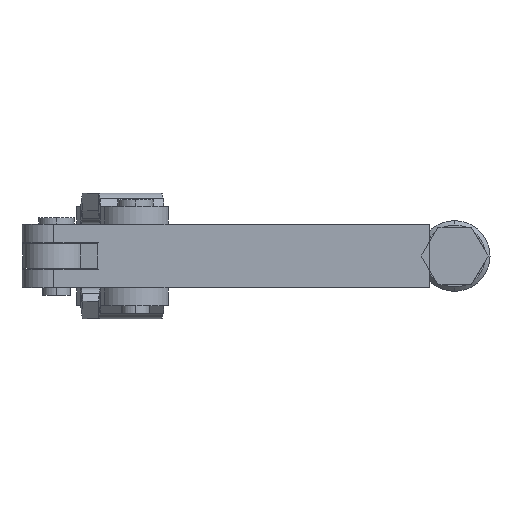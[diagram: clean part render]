
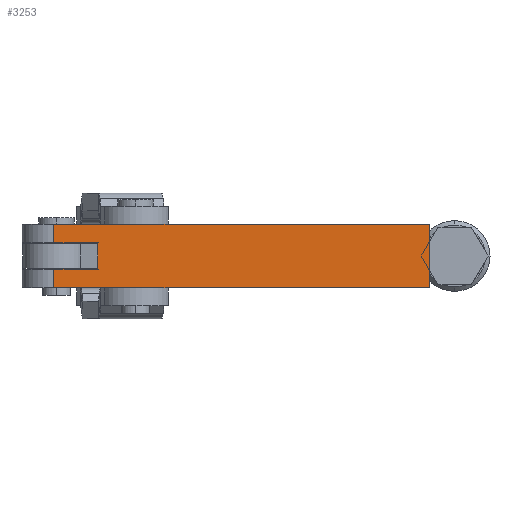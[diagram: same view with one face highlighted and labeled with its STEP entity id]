
A CAD part, front view. The second image highlights one B-rep face of the part: STEP entity #3253.
In plain terms, the highlighted planar face has unit normal (0, -1, 0).
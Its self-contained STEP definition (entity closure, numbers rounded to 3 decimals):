
#77 = ORIENTED_EDGE ( 'NONE', *, *, #5829, .T. ) ;
#206 = ORIENTED_EDGE ( 'NONE', *, *, #5756, .T. ) ;
#207 = EDGE_LOOP ( 'NONE', ( #522, #77, #375, #269, #5103, #206, #4945, #301 ) ) ;
#269 = ORIENTED_EDGE ( 'NONE', *, *, #5743, .F. ) ;
#301 = ORIENTED_EDGE ( 'NONE', *, *, #5794, .F. ) ;
#375 = ORIENTED_EDGE ( 'NONE', *, *, #5805, .T. ) ;
#522 = ORIENTED_EDGE ( 'NONE', *, *, #5820, .F. ) ;
#702 = AXIS2_PLACEMENT_3D ( 'NONE', #2224, #2223, #2222 ) ;
#1038 = CARTESIAN_POINT ( 'NONE',  ( -91.5, -7.144, 7.144 ) ) ;
#1059 = CARTESIAN_POINT ( 'NONE',  ( -7.144, -7.144, 7.144 ) ) ;
#1118 = CARTESIAN_POINT ( 'NONE',  ( -17., -7.144, -3. ) ) ;
#1168 = DIRECTION ( 'NONE',  ( 0., 0., -1. ) ) ;
#1210 = CARTESIAN_POINT ( 'NONE',  ( -91.5, -7.144, 7.144 ) ) ;
#1217 = CARTESIAN_POINT ( 'NONE',  ( -7.144, -7.144, -7.144 ) ) ;
#1240 = CARTESIAN_POINT ( 'NONE',  ( -7.144, -7.144, -3. ) ) ;
#1388 = CARTESIAN_POINT ( 'NONE',  ( -17., -7.144, -3. ) ) ;
#1409 = LINE ( 'NONE', #1038, #4379 ) ;
#1417 = DIRECTION ( 'NONE',  ( 0., 0., -1. ) ) ;
#1508 = DIRECTION ( 'NONE',  ( 1., 0., 0. ) ) ;
#1510 = CARTESIAN_POINT ( 'NONE',  ( -17., -7.144, 3. ) ) ;
#1519 = LINE ( 'NONE', #1510, #4555 ) ;
#1560 = DIRECTION ( 'NONE',  ( 0., 0., -1. ) ) ;
#1561 = CARTESIAN_POINT ( 'NONE',  ( -7.144, -7.144, 7.144 ) ) ;
#1564 = LINE ( 'NONE', #1561, #4727 ) ;
#1569 = DIRECTION ( 'NONE',  ( 1., 0., 0. ) ) ;
#1570 = CARTESIAN_POINT ( 'NONE',  ( -91.5, -7.144, -7.144 ) ) ;
#1598 = LINE ( 'NONE', #1570, #4508 ) ;
#1690 = LINE ( 'NONE', #1691, #4520 ) ;
#1691 = CARTESIAN_POINT ( 'NONE',  ( -91.5, -7.144, 7.144 ) ) ;
#1767 = CARTESIAN_POINT ( 'NONE',  ( -7.144, -7.144, 3. ) ) ;
#1772 = CARTESIAN_POINT ( 'NONE',  ( -7.144, -7.144, 7.144 ) ) ;
#1852 = DIRECTION ( 'NONE',  ( 0., 0., 1. ) ) ;
#1862 = LINE ( 'NONE', #1931, #4458 ) ;
#1873 = DIRECTION ( 'NONE',  ( 1., 0., 0. ) ) ;
#1874 = LINE ( 'NONE', #1388, #4591 ) ;
#1885 = DIRECTION ( 'NONE',  ( 1., 0., 0. ) ) ;
#1916 = LINE ( 'NONE', #1772, #4493 ) ;
#1931 = CARTESIAN_POINT ( 'NONE',  ( -17., -7.144, -3. ) ) ;
#1948 = CARTESIAN_POINT ( 'NONE',  ( -17., -7.144, 3. ) ) ;
#1967 = CARTESIAN_POINT ( 'NONE',  ( -91.5, -7.144, -7.144 ) ) ;
#2222 = DIRECTION ( 'NONE',  ( -1., 0., 0. ) ) ;
#2223 = DIRECTION ( 'NONE',  ( 0., 1., 0. ) ) ;
#2224 = CARTESIAN_POINT ( 'NONE',  ( -91.5, -7.144, 7.144 ) ) ;
#2227 = PLANE ( 'NONE',  #702 ) ;
#2228 = FACE_OUTER_BOUND ( 'NONE', #207, .T. ) ;
#3253 = ADVANCED_FACE ( 'NONE', ( #2228 ), #2227, .F. ) ;
#4379 = VECTOR ( 'NONE', #1417, 1000. ) ;
#4458 = VECTOR ( 'NONE', #1852, 1000. ) ;
#4493 = VECTOR ( 'NONE', #1168, 1000. ) ;
#4508 = VECTOR ( 'NONE', #1569, 1000. ) ;
#4520 = VECTOR ( 'NONE', #1873, 1000. ) ;
#4555 = VECTOR ( 'NONE', #1508, 1000. ) ;
#4591 = VECTOR ( 'NONE', #1885, 1000. ) ;
#4727 = VECTOR ( 'NONE', #1560, 1000. ) ;
#4945 = ORIENTED_EDGE ( 'NONE', *, *, #5792, .T. ) ;
#5103 = ORIENTED_EDGE ( 'NONE', *, *, #5832, .F. ) ;
#5144 = VERTEX_POINT ( 'NONE', #1767 ) ;
#5192 = VERTEX_POINT ( 'NONE', #1967 ) ;
#5198 = VERTEX_POINT ( 'NONE', #1948 ) ;
#5213 = VERTEX_POINT ( 'NONE', #1210 ) ;
#5220 = VERTEX_POINT ( 'NONE', #1240 ) ;
#5450 = VERTEX_POINT ( 'NONE', #1217 ) ;
#5467 = VERTEX_POINT ( 'NONE', #1118 ) ;
#5475 = VERTEX_POINT ( 'NONE', #1059 ) ;
#5743 = EDGE_CURVE ( 'NONE', #5475, #5144, #1916, .T. ) ;
#5756 = EDGE_CURVE ( 'NONE', #5213, #5192, #1409, .T. ) ;
#5792 = EDGE_CURVE ( 'NONE', #5192, #5450, #1598, .T. ) ;
#5794 = EDGE_CURVE ( 'NONE', #5220, #5450, #1564, .T. ) ;
#5805 = EDGE_CURVE ( 'NONE', #5198, #5144, #1519, .T. ) ;
#5820 = EDGE_CURVE ( 'NONE', #5467, #5220, #1874, .T. ) ;
#5829 = EDGE_CURVE ( 'NONE', #5467, #5198, #1862, .T. ) ;
#5832 = EDGE_CURVE ( 'NONE', #5213, #5475, #1690, .T. ) ;
